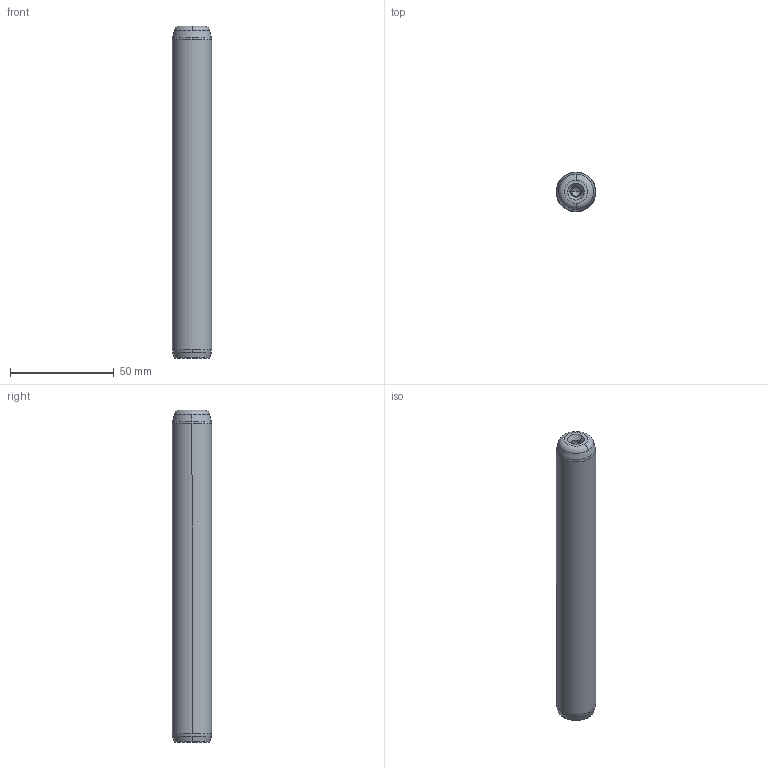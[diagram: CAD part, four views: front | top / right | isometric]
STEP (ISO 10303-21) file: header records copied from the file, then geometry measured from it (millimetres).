
FILE_DESCRIPTION((''),'2;1');
FILE_NAME('P10_019_160.stp','2008-12-23T13:56:47',(''),(''),'Mechanical Desktop 2009','Mechanical Desktop 2009',', , ');
FILE_SCHEMA(('CONFIG_CONTROL_DESIGN'));
Length unit declared in the file: millimetre
Products named in the file (5): Product; ProductAA; blmdl1; ProductA; blmdl1A
Assembly tree (2 placements, depth 3):
  Product
    ProductAA
      blmdl1
  ProductA
  blmdl1A
Bounding box: 19 x 19 x 160 mm (x, y, z)
Volume: 44638.1 mm3; surface area: 10139 mm2
Topology: 1 solids, 1 shells, 26 faces, 66 edges, 41 vertices
Faces by surface type: cone 10, cylinder 6, torus 4, bspline 4, plane 2
Entity records: 1100 total; most frequent: CARTESIAN_POINT 238, DIRECTION 162, ORIENTED_EDGE 128, AXIS2_PLACEMENT_3D 73, EDGE_CURVE 64, CIRCLE 48, VERTEX_POINT 41, EDGE_LOOP 27
